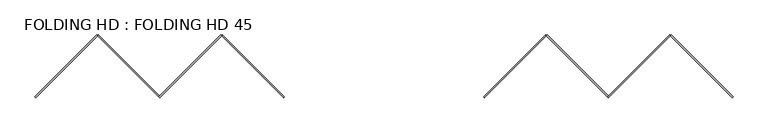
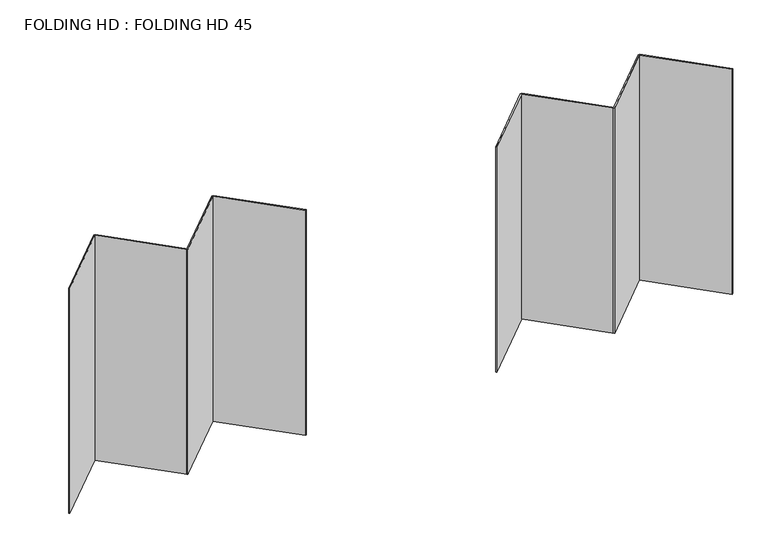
"""IFC4 building model written with IfcOpenShell, lengths in millimetres: plate geometry, FOLDING HD : FOLDING HD 45."""

import ifcopenshell
import ifcopenshell.guid

model = None  # the IFC model being written
_history = None  # IfcOwnerHistory: only IFC2X3 demands one
_inside = {}  # id of a spatial element -> (the spatial element, [elements in it])
_under = {}  # id of a project, library or spatial element -> (it, [spatial elements below it])
_declared = {}  # id of a project -> (the project, [libraries it declares])
_typed = {}  # id of a type object -> (the type object, [elements of that type])
_made_of = {}  # id of a material, layer set ... -> (it, [elements and type objects made of it])


def new_model(schema):
    """Start an empty IFC model of exactly this schema.

    Asked for "IFC4X3", IfcOpenShell would pick the latest addendum, in which some entities
    have other attributes; the version numbers below select the first issue.
    IFC2X3 requires an IfcOwnerHistory on every rooted entity: one is made here for all.
    """
    global model, _history
    if schema == "IFC4X3":
        model = ifcopenshell.file(schema_version=(4, 3, 0, 0))
    else:
        model = ifcopenshell.file(schema=schema)
    _inside.clear()
    _under.clear()
    _declared.clear()
    _typed.clear()
    _made_of.clear()
    _history = None
    if model.schema == "IFC2X3":
        org = make("IfcOrganization", Name="unknown")
        user = make(
            "IfcPersonAndOrganization",
            ThePerson=make("IfcPerson", FamilyName="unknown"),
            TheOrganization=org,
        )
        app = make(
            "IfcApplication",
            ApplicationDeveloper=org,
            Version="unknown",
            ApplicationFullName="unknown",
            ApplicationIdentifier="unknown",
        )
        _history = make(
            "IfcOwnerHistory",
            OwningUser=user,
            OwningApplication=app,
            ChangeAction="ADDED",
            CreationDate=0,
        )
    return model


def make(cls, **values):
    """One entity of the class cls with the attributes given. An attribute that is None is left unset."""
    return model.create_entity(
        cls, **{name: value for name, value in values.items() if value is not None}
    )


def rooted(cls, **values):
    """An entity with a GlobalId (a new one), such as an element, a storey or a relation."""
    return make(cls, GlobalId=ifcopenshell.guid.new(), OwnerHistory=_history, **values)


def si_unit(unit_type, name, prefix=None):
    """IfcSIUnit, for example si_unit("LENGTHUNIT", "METRE", prefix="MILLI")."""
    return make("IfcSIUnit", UnitType=unit_type, Prefix=prefix, Name=name)


def assignment(units):
    """IfcUnitAssignment: the units of a project."""
    return None if units is None else make("IfcUnitAssignment", Units=units)


def point(xyz):
    """IfcCartesianPoint."""
    return None if xyz is None else make("IfcCartesianPoint", Coordinates=xyz)


def direction(xyz):
    """IfcDirection."""
    return None if xyz is None else make("IfcDirection", DirectionRatios=xyz)


def frame(location, z_axis=None, x_axis=None):
    """IfcAxis2Placement3D, a coordinate frame: its origin and axes. An axis left out is left unset."""
    return make(
        "IfcAxis2Placement3D",
        Location=point(location),
        Axis=direction(z_axis),
        RefDirection=direction(x_axis),
    )


def origin():
    """The frame at (0, 0, 0) with its axes left unset."""
    return frame((0.0, 0.0, 0.0))


def origin_with_axes():
    """The frame at (0, 0, 0) with the z axis (0, 0, 1) and the x axis (1, 0, 0) written out."""
    return frame((0.0, 0.0, 0.0), z_axis=(0.0, 0.0, 1.0), x_axis=(1.0, 0.0, 0.0))


def place(relative_to, where):
    """IfcLocalPlacement: puts the frame where relative to a parent placement (None: the world)."""
    return make(
        "IfcLocalPlacement", PlacementRelTo=relative_to, RelativePlacement=where
    )


def context(
    kind, dimensions, precision=None, world=None, true_north=None, identifier=None
):
    """IfcGeometricRepresentationContext, for example the 3D "Model" context."""
    return make(
        "IfcGeometricRepresentationContext",
        ContextIdentifier=identifier,
        ContextType=kind,
        CoordinateSpaceDimension=dimensions,
        Precision=precision,
        WorldCoordinateSystem=world,
        TrueNorth=true_north,
    )


def project(units=None, contexts=None):
    """IfcProject with its units and contexts."""
    return rooted(
        "IfcProject",
        Name="project",
        RepresentationContexts=contexts,
        UnitsInContext=assignment(units),
    )


def spatial(cls, under=None, at=None, **own):
    """A site, building, storey or space (cls), placed at a placement, below another one or the project."""
    s = rooted(cls, ObjectPlacement=at, **own)
    if under is not None:
        _under.setdefault(under.id(), (under, []))[1].append(s)
    return s


def polyline(points):
    """IfcPolyline through the points."""
    return make("IfcPolyline", Points=[point(p) for p in points])


def outline(outer, holes=None, kind="AREA"):
    """IfcArbitraryClosedProfileDef: a profile drawn as a closed curve; with holes, ...WithVoids."""
    if holes is None:
        return make("IfcArbitraryClosedProfileDef", ProfileType=kind, OuterCurve=outer)
    return make(
        "IfcArbitraryProfileDefWithVoids",
        ProfileType=kind,
        OuterCurve=outer,
        InnerCurves=holes,
    )


def extrude(swept, where, along, depth):
    """IfcExtrudedAreaSolid: the profile swept, set in the frame where, extruded along a direction by depth."""
    return make(
        "IfcExtrudedAreaSolid",
        SweptArea=swept,
        Position=where,
        ExtrudedDirection=direction(along),
        Depth=depth,
    )


def shape(context_of_items, identifier, shape_type, items):
    """IfcShapeRepresentation: the items that make up one representation, for example the "Body"."""
    return make(
        "IfcShapeRepresentation",
        ContextOfItems=context_of_items,
        RepresentationIdentifier=identifier,
        RepresentationType=shape_type,
        Items=items,
    )


def source(mapping_origin, context_of_items, identifier, shape_type, items):
    """IfcRepresentationMap: a shape defined once, which mapped items show again and again."""
    return make(
        "IfcRepresentationMap",
        MappingOrigin=mapping_origin,
        MappedRepresentation=shape(context_of_items, identifier, shape_type, items),
    )


def transform(
    local_origin,
    x_axis=None,
    y_axis=None,
    z_axis=None,
    scale=None,
    scale2=None,
    scale3=None,
    uniform=True,
):
    """IfcCartesianTransformationOperator3D, or its non-uniform kind. x_axis, y_axis, z_axis: its Axis1, 2, 3."""
    if uniform:
        return make(
            "IfcCartesianTransformationOperator3D",
            Axis1=direction(x_axis),
            Axis2=direction(y_axis),
            LocalOrigin=point(local_origin),
            Scale=scale,
            Axis3=direction(z_axis),
        )
    return make(
        "IfcCartesianTransformationOperator3DnonUniform",
        Axis1=direction(x_axis),
        Axis2=direction(y_axis),
        LocalOrigin=point(local_origin),
        Scale=scale,
        Axis3=direction(z_axis),
        Scale2=scale2,
        Scale3=scale3,
    )


def mapped(mapping_source, mapping_target):
    """IfcMappedItem: shows the shape of a source again, moved by a transform."""
    return make(
        "IfcMappedItem", MappingSource=mapping_source, MappingTarget=mapping_target
    )


def made_of(thing, what):
    """Note that an element or type object is made of a material, layer set ...; save() writes the relation."""
    if what is not None:
        _made_of.setdefault(what.id(), (what, []))[1].append(thing)
    return thing


def element(
    cls,
    number,
    at=None,
    inside=None,
    cuts=None,
    type_object=None,
    material=None,
    context=None,
    identifier="Body",
    shape_type=None,
    held_by="IfcProductDefinitionShape",
    body=None,
    shapes=None,
    **own,
):
    """One element of the class cls, such as IfcWall. Its Tag is "e" and its number.

    at: its placement. inside: the storey or other place that contains it. cuts: it is an
    opening in that element (IfcRelVoidsElement). A single representation is given by context,
    identifier, shape_type and body (its items); several are given by shapes. held_by: the class
    of the entity that holds the representations. save() writes the other relations.
    """
    e = rooted(cls, Tag="e%d" % number, ObjectPlacement=at, **own)
    if body is not None:
        shapes = [shape(context, identifier, shape_type, body)]
    if shapes is not None:
        e.Representation = make(held_by, Representations=shapes)
    if inside is not None:
        _inside.setdefault(inside.id(), (inside, []))[1].append(e)
    if cuts is not None:
        rooted(
            "IfcRelVoidsElement", RelatingBuildingElement=cuts, RelatedOpeningElement=e
        )
    if type_object is not None:
        _typed.setdefault(type_object.id(), (type_object, []))[1].append(e)
    return made_of(e, material)


def aggregate(whole, parts):
    """IfcRelAggregates: a whole, such as a stair, and the parts it consists of."""
    return rooted("IfcRelAggregates", RelatingObject=whole, RelatedObjects=parts)


def save(model, path):
    """Write the relations noted so far, then the file.

    IfcRelAggregates (storeys below a building ...), IfcRelContainedInSpatialStructure (elements
    in a storey), IfcRelDefinesByType, IfcRelAssociatesMaterial and IfcRelDeclares: one each for
    every whole, place, type object, material and project.
    """
    for whole, parts in _under.values():
        aggregate(whole, parts)
    for where, things in _inside.values():
        rooted(
            "IfcRelContainedInSpatialStructure",
            RelatedElements=things,
            RelatingStructure=where,
        )
    for kind, things in _typed.values():
        rooted("IfcRelDefinesByType", RelatedObjects=things, RelatingType=kind)
    for what, things in _made_of.values():
        rooted("IfcRelAssociatesMaterial", RelatedObjects=things, RelatingMaterial=what)
    for by, libraries in _declared.values():
        rooted("IfcRelDeclares", RelatingContext=by, RelatedDefinitions=libraries)
    model.write(path)


def folding_hd_folding_hd_45_0b72d655(model_context):
    return source(origin(), model_context, "Body", "SweptSolid", [
        extrude(outline(polyline([(2938.6038969, 636.3961031), (2302.2077939, 0.0), (2295.1367261, 7.0710678), (2931.5328291, 643.4671709), (2938.6038969, 636.3961031)])), origin_with_axes(), (0.0, 0.0, 1.0), 2570.0),
        extrude(outline(polyline([(2938.6038969, 636.3961031), (2945.6749647, 643.4671709), (3582.0710678, 7.0710678), (3575.0, 0.0), (2938.6038969, 636.3961031)])), origin_with_axes(), (0.0, 0.0, 1.0), 2570.0),
        extrude(outline(polyline([(1665.8116908, 636.3961031), (1672.8827586, 643.4671709), (2309.2788617, 7.0710678), (2302.2077939, 0.0), (1665.8116908, 636.3961031)])), origin_with_axes(), (0.0, 0.0, 1.0), 2570.0),
        extrude(outline(polyline([(1665.8116908, 636.3961031), (1029.4155877, 0.0), (1022.3445199, 7.0710678), (1658.740623, 643.4671709), (1665.8116908, 636.3961031)])), origin_with_axes(), (0.0, 0.0, 1.0), 2570.0),
        extrude(outline(polyline([(-1665.8116908, 636.3961031), (-2302.2077939, 0.0), (-2309.2788617, 7.0710678), (-1672.8827586, 643.4671709), (-1665.8116908, 636.3961031)])), origin_with_axes(), (0.0, 0.0, 1.0), 2570.0),
        extrude(outline(polyline([(-1665.8116908, 636.3961031), (-1658.740623, 643.4671709), (-1022.3445199, 7.0710678), (-1029.4155877, 0.0), (-1665.8116908, 636.3961031)])), origin_with_axes(), (0.0, 0.0, 1.0), 2570.0),
        extrude(outline(polyline([(-2938.6038969, 636.3961031), (-2931.5328291, 643.4671709), (-2295.1367261, 7.0710678), (-2302.2077939, 0.0), (-2938.6038969, 636.3961031)])), origin_with_axes(), (0.0, 0.0, 1.0), 2570.0),
        extrude(outline(polyline([(-2938.6038969, 636.3961031), (-3575.0, 0.0), (-3582.0710678, 7.0710678), (-2945.6749647, 643.4671709), (-2938.6038969, 636.3961031)])), origin_with_axes(), (0.0, 0.0, 1.0), 2570.0),
    ])


if __name__ == "__main__":
    model = new_model("IFC4")
    model_context = context("Model", 3, world=origin())
    ifc_project = project(units=[si_unit("LENGTHUNIT", "METRE", prefix="MILLI")], contexts=[model_context])
    site = spatial("IfcSite", under=ifc_project)
    building = spatial("IfcBuilding", under=site)
    placement = place(None, origin())
    folding_hd_folding_hd_45_shape = folding_hd_folding_hd_45_0b72d655(model_context)
    element("IfcPlate", 1, ObjectType="FOLDING HD : FOLDING HD 45", at=placement, inside=building, context=model_context, shape_type="MappedRepresentation", body=[
        mapped(folding_hd_folding_hd_45_shape, transform((0.0, 0.0, 0.0), x_axis=(1.0, 0.0, 0.0), y_axis=(0.0, 1.0, 0.0), z_axis=(0.0, 0.0, 1.0))),
    ])
    save(model, "model.ifc")
